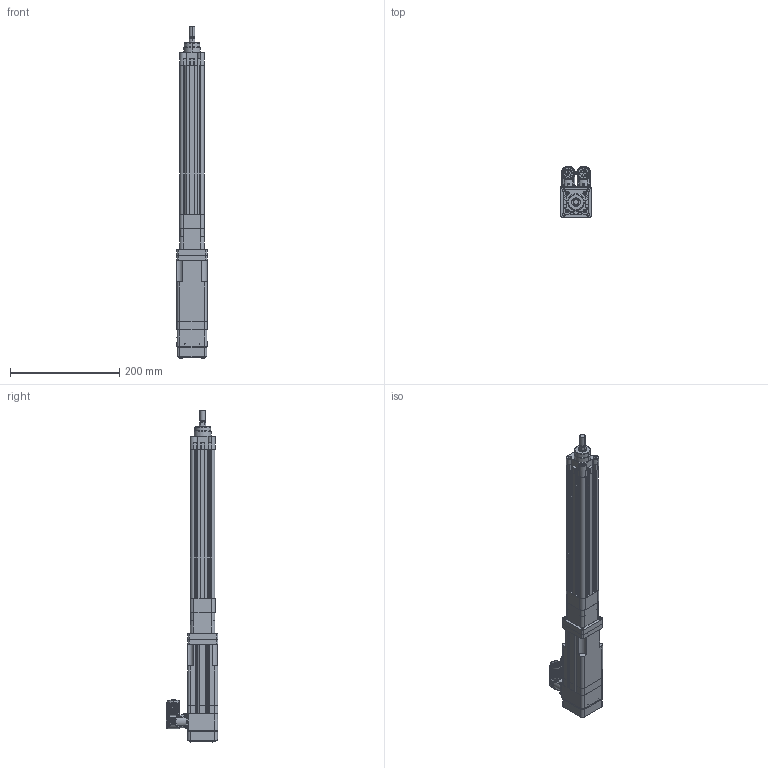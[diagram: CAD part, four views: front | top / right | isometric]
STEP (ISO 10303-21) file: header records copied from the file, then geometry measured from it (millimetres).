
FILE_DESCRIPTION((''),'2;1');
FILE_NAME('MPAR-X1200E-V4A_ASM','2009-04-15T',('dperuma'),('Rockwell Automation'),'PRO/ENGINEER BY PARAMETRIC TECHNOLOGY CORPORATION, 2004490','PRO/ENGINEER BY PARAMETRIC TECHNOLOGY CORPORATION, 2004490','');
FILE_SCHEMA(('CONFIG_CONTROL_DESIGN'));
Length unit declared in the file: millimetre
Products named in the file (46): PRT0001-543120; PRT0002-543120; 627358_627362_ASM; 627462; 627457; 627453; CA33127-020-0_1; EPF-CA30591-0_1; IMPORT-1113_1; IMPORT-1114_1; IMPORT-1115_1; EPF-CA28084-0_ASM_1_ASM; MPG-FASTNER-1116_1; MPG-FASTNER-1117_1; MPG-FASTNER-1118_1; MPG-FASTNER-1119_1; EPF-CA28083-0_ASM_1_ASM; DIN912-2-5-006-0_1; MPG-FASTNER-1122_1; MPG-FASTNER-1123_1; EPF-C08363-0_ASM_1_ASM; EPF-C08459-001-0_1; G4X2L20-0_ASM_1_ASM; B1530-BRK-HSG_1; EPF-B47940-001A_1; IMPORT-1106_1; MANIFOLD_SOLID_BREP_45981; MANIFOLD_SOLID_BREP_46020; MANIFOLD_SOLID_BREP_46059; MANIFOLD_SOLID_BREP_46098; MANIFOLD_SOLID_BREP_46137; MANIFOLD_SOLID_BREP_46176; MANIFOLD_SOLID_BREP_46215; MANIFOLD_SOLID_BREP_46254; IMPORT-1107_1_ASM; IMPORT-1108_1; A73229-002_D_ASM_1_ASM; EPF-CA30891-0_1; DIN912-003-012-_1; 0011-G402_1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
Assembly tree (69 placements, depth 6):
  MPAR-X1200E-V4A_ASM
    627358_627362_ASM
      PRT0001-543120
      PRT0002-543120
    627462
    627457
    627453
    MPL-1530-J44AA_ASM
      MPL-1530-J44AA_ASM_1_ASM
        G4X2L20-0_ASM_1_ASM
          CA33127-020-0_1
          EPF-CA30591-0_1
          EPF-CA28084-0_ASM_1_ASM
            IMPORT-1113_1
            IMPORT-1114_1
            IMPORT-1115_1
          EPF-CA28083-0_ASM_1_ASM
            MPG-FASTNER-1116_1
            MPG-FASTNER-1117_1
            MPG-FASTNER-1118_1
            MPG-FASTNER-1119_1
          DIN912-2-5-006-0_1  x8
          EPF-C08363-0_ASM_1_ASM  x4
            MPG-FASTNER-1122_1
            MPG-FASTNER-1123_1
          EPF-C08459-001-0_1  x8
        B1530-BRK-HSG_1
        EPF-B47940-001A_1
        A73229-002_D_ASM_1_ASM
          IMPORT-1106_1
          IMPORT-1107_1_ASM
            MANIFOLD_SOLID_BREP_45981
            MANIFOLD_SOLID_BREP_46020
            MANIFOLD_SOLID_BREP_46059
            MANIFOLD_SOLID_BREP_46098
            MANIFOLD_SOLID_BREP_46137
            MANIFOLD_SOLID_BREP_46176
            MANIFOLD_SOLID_BREP_46215
            MANIFOLD_SOLID_BREP_46254
          IMPORT-1108_1
        EPF-CA30891-0_1
        DIN912-003-012-_1  x4
        0011-G402_1
        EPF-C08725-001-0_1  x2
        X15XX-BRK_1
        EPF-DIN7985-003-020-0_1  x4
Bounding box: 55.03 x 94 x 606.76 mm (x, y, z)
Volume: 1054475.5 mm3; surface area: 292035.2 mm2
Topology: 63 solids, 68 shells, 3231 faces, 8387 edges, 5312 vertices
Faces by surface type: cylinder 1399, plane 991, cone 505, torus 194, bspline 74, sphere 68
Entity records: 92809 total; most frequent: CARTESIAN_POINT 25785, DIRECTION 14222, ORIENTED_EDGE 13800, EDGE_CURVE 6904, AXIS2_PLACEMENT_3D 5557, VERTEX_POINT 4508, VECTOR 3108, LINE 3108
